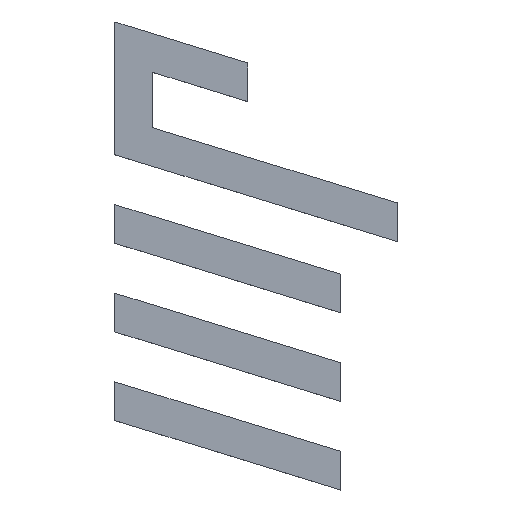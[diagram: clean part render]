
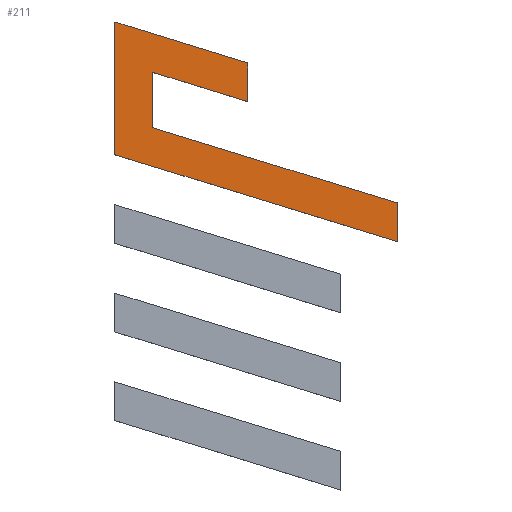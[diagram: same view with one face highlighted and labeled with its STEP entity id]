
A CAD part, top view. The second image highlights one B-rep face of the part: STEP entity #211.
In plain terms, the highlighted planar face has unit normal (0, 0, 1).
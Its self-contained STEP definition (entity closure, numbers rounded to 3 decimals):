
#5 = EDGE_CURVE ( 'NONE', #362, #776, #786, .T. ) ;
#48 = CARTESIAN_POINT ( 'NONE',  ( 17.825, 6.204, 0.8 ) ) ;
#55 = DIRECTION ( 'NONE',  ( 0., 1., 0. ) ) ;
#75 = CARTESIAN_POINT ( 'NONE',  ( 17.825, 6.204, 0.8 ) ) ;
#85 = EDGE_CURVE ( 'NONE', #392, #479, #208, .T. ) ;
#89 = EDGE_LOOP ( 'NONE', ( #210, #803, #294, #245, #763, #484, #734, #93 ) ) ;
#93 = ORIENTED_EDGE ( 'NONE', *, *, #365, .T. ) ;
#105 = EDGE_CURVE ( 'NONE', #619, #610, #466, .T. ) ;
#110 = CARTESIAN_POINT ( 'NONE',  ( 14.869, 5.91, 0.8 ) ) ;
#145 = VERTEX_POINT ( 'NONE', #722 ) ;
#148 = CARTESIAN_POINT ( 'NONE',  ( 13.687, 3.343, 0.8 ) ) ;
#172 = DIRECTION ( 'NONE',  ( 0., 1., 0. ) ) ;
#173 = VECTOR ( 'NONE', #172, 1000. ) ;
#175 = LINE ( 'NONE', #110, #400 ) ;
#188 = DIRECTION ( 'NONE',  ( 0., -1., 0. ) ) ;
#195 = CARTESIAN_POINT ( 'NONE',  ( 22.485, 0.631, 0.8 ) ) ;
#208 = LINE ( 'NONE', #781, #518 ) ;
#210 = ORIENTED_EDGE ( 'NONE', *, *, #5, .T. ) ;
#211 = ADVANCED_FACE ( 'NONE', ( #541 ), #415, .T. ) ;
#236 = VECTOR ( 'NONE', #773, 1000. ) ;
#237 = VECTOR ( 'NONE', #572, 1000. ) ;
#245 = ORIENTED_EDGE ( 'NONE', *, *, #775, .T. ) ;
#248 = CARTESIAN_POINT ( 'NONE',  ( 17.825, 4.998, 0.8 ) ) ;
#268 = VECTOR ( 'NONE', #55, 1000. ) ;
#283 = DIRECTION ( 'NONE',  ( -0.956, 0.295, 0. ) ) ;
#290 = VERTEX_POINT ( 'NONE', #766 ) ;
#292 = EDGE_CURVE ( 'NONE', #776, #619, #387, .T. ) ;
#294 = ORIENTED_EDGE ( 'NONE', *, *, #105, .T. ) ;
#362 = VERTEX_POINT ( 'NONE', #48 ) ;
#365 = EDGE_CURVE ( 'NONE', #290, #362, #503, .T. ) ;
#387 = LINE ( 'NONE', #586, #564 ) ;
#392 = VERTEX_POINT ( 'NONE', #813 ) ;
#400 = VECTOR ( 'NONE', #626, 1000. ) ;
#415 = PLANE ( 'NONE',  #581 ) ;
#447 = LINE ( 'NONE', #195, #268 ) ;
#466 = LINE ( 'NONE', #148, #628 ) ;
#470 = DIRECTION ( 'NONE',  ( 0., 0., 1. ) ) ;
#479 = VERTEX_POINT ( 'NONE', #598 ) ;
#484 = ORIENTED_EDGE ( 'NONE', *, *, #769, .T. ) ;
#503 = LINE ( 'NONE', #248, #173 ) ;
#518 = VECTOR ( 'NONE', #283, 1000. ) ;
#541 = FACE_OUTER_BOUND ( 'NONE', #89, .T. ) ;
#543 = EDGE_CURVE ( 'NONE', #145, #290, #175, .T. ) ;
#546 = DIRECTION ( 'NONE',  ( 1., 0., 0. ) ) ;
#564 = VECTOR ( 'NONE', #188, 1000. ) ;
#572 = DIRECTION ( 'NONE',  ( 0., 1., 0. ) ) ;
#577 = CARTESIAN_POINT ( 'NONE',  ( 13.687, 7.48, 0.8 ) ) ;
#581 = AXIS2_PLACEMENT_3D ( 'NONE', #779, #470, #546 ) ;
#586 = CARTESIAN_POINT ( 'NONE',  ( 13.687, 7.48, 0.8 ) ) ;
#598 = CARTESIAN_POINT ( 'NONE',  ( 14.869, 4.184, 0.8 ) ) ;
#610 = VERTEX_POINT ( 'NONE', #758 ) ;
#619 = VERTEX_POINT ( 'NONE', #821 ) ;
#626 = DIRECTION ( 'NONE',  ( 0.956, -0.295, 0. ) ) ;
#628 = VECTOR ( 'NONE', #724, 1000. ) ;
#722 = CARTESIAN_POINT ( 'NONE',  ( 14.869, 5.91, 0.8 ) ) ;
#724 = DIRECTION ( 'NONE',  ( 0.956, -0.295, 0. ) ) ;
#734 = ORIENTED_EDGE ( 'NONE', *, *, #543, .T. ) ;
#758 = CARTESIAN_POINT ( 'NONE',  ( 22.485, 0.631, 0.8 ) ) ;
#763 = ORIENTED_EDGE ( 'NONE', *, *, #85, .T. ) ;
#764 = LINE ( 'NONE', #767, #237 ) ;
#766 = CARTESIAN_POINT ( 'NONE',  ( 17.825, 4.998, 0.8 ) ) ;
#767 = CARTESIAN_POINT ( 'NONE',  ( 14.869, 4.184, 0.8 ) ) ;
#769 = EDGE_CURVE ( 'NONE', #479, #145, #764, .T. ) ;
#773 = DIRECTION ( 'NONE',  ( -0.956, 0.295, 0. ) ) ;
#775 = EDGE_CURVE ( 'NONE', #610, #392, #447, .T. ) ;
#776 = VERTEX_POINT ( 'NONE', #577 ) ;
#779 = CARTESIAN_POINT ( 'NONE',  ( 0., 0., 0.8 ) ) ;
#781 = CARTESIAN_POINT ( 'NONE',  ( 22.485, 1.837, 0.8 ) ) ;
#786 = LINE ( 'NONE', #75, #236 ) ;
#803 = ORIENTED_EDGE ( 'NONE', *, *, #292, .T. ) ;
#813 = CARTESIAN_POINT ( 'NONE',  ( 22.485, 1.837, 0.8 ) ) ;
#821 = CARTESIAN_POINT ( 'NONE',  ( 13.687, 3.343, 0.8 ) ) ;
